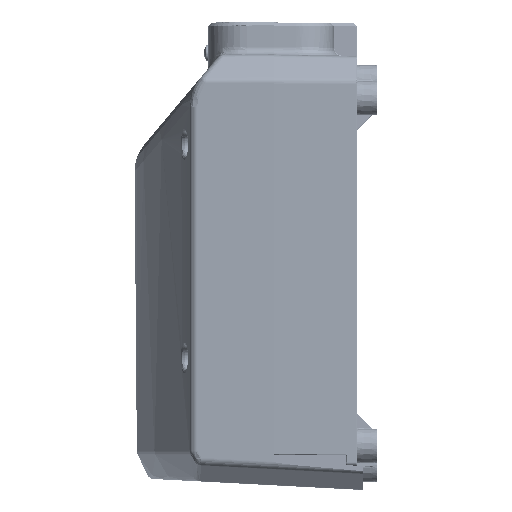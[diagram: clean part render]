
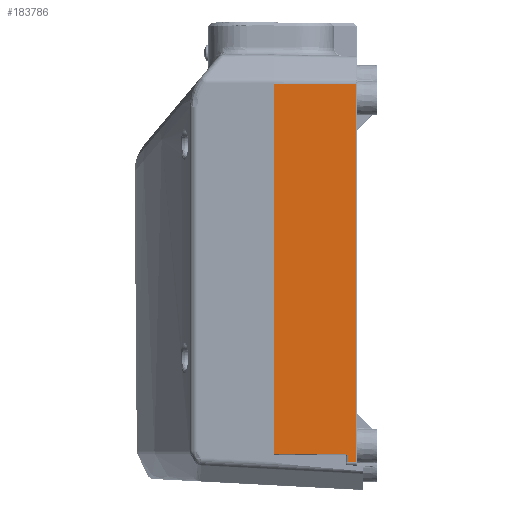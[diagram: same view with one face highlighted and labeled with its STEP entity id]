
A CAD part, left-side view. The second image highlights one B-rep face of the part: STEP entity #183786.
In plain terms, the highlighted planar face has unit normal (-1, -0.018, 0).
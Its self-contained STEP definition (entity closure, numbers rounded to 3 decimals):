
#6213 = EDGE_CURVE ( 'NONE', #103145, #340729, #163221, .T. ) ;
#9794 = CARTESIAN_POINT ( 'NONE',  ( -214.371, 4.66, -89.884 ) ) ;
#15762 = LINE ( 'NONE', #259124, #310454 ) ;
#22607 = PLANE ( 'NONE',  #109506 ) ;
#25508 = EDGE_CURVE ( 'NONE', #76959, #103145, #99662, .T. ) ;
#27721 = DIRECTION ( 'NONE',  ( 0., 0., -1. ) ) ;
#35865 =( BOUNDED_CURVE ( )  B_SPLINE_CURVE ( 3, ( #95740, #93287, #9794, #123991 ),
 .UNSPECIFIED., .F., .F. ) 
 B_SPLINE_CURVE_WITH_KNOTS ( ( 4, 4 ),
 ( 4.721, 6.283 ),
 .UNSPECIFIED. ) 
 CURVE ( )  GEOMETRIC_REPRESENTATION_ITEM ( )  RATIONAL_B_SPLINE_CURVE ( ( 1., 0.807, 0.807, 1. ) ) 
 REPRESENTATION_ITEM ( '' )  );
#36779 = VERTEX_POINT ( 'NONE', #286441 ) ;
#52060 = ORIENTED_EDGE ( 'NONE', *, *, #254551, .T. ) ;
#60481 = EDGE_LOOP ( 'NONE', ( #352280, #305867, #65878, #52060, #292369, #326067, #231932 ) ) ;
#65878 = ORIENTED_EDGE ( 'NONE', *, *, #145811, .T. ) ;
#76959 = VERTEX_POINT ( 'NONE', #344638 ) ;
#77923 = DIRECTION ( 'NONE',  ( -1., -0.017, 0. ) ) ;
#90375 = EDGE_CURVE ( 'NONE', #271574, #279142, #15762, .T. ) ;
#93287 = CARTESIAN_POINT ( 'NONE',  ( -214.375, 4.866, -89.676 ) ) ;
#95020 = VECTOR ( 'NONE', #213374, 1000. ) ;
#95740 = CARTESIAN_POINT ( 'NONE',  ( -214.38, 5.158, -89.673 ) ) ;
#99662 = LINE ( 'NONE', #109133, #95020 ) ;
#103145 = VERTEX_POINT ( 'NONE', #189181 ) ;
#104297 = VECTOR ( 'NONE', #268655, 1000. ) ;
#108007 = CARTESIAN_POINT ( 'NONE',  ( -214.287, -0.144, -89.72 ) ) ;
#109133 = CARTESIAN_POINT ( 'NONE',  ( -214.265, -1.439, 90.045 ) ) ;
#109506 = AXIS2_PLACEMENT_3D ( 'NONE', #246097, #77923, #274387 ) ;
#112518 = CARTESIAN_POINT ( 'NONE',  ( -214.986, 39.87, -89.37 ) ) ;
#113506 = EDGE_CURVE ( 'NONE', #36779, #271574, #323925, .T. ) ;
#123265 = DIRECTION ( 'NONE',  ( 0., 0., 1. ) ) ;
#123991 = CARTESIAN_POINT ( 'NONE',  ( -214.371, 4.66, -90.176 ) ) ;
#145811 = EDGE_CURVE ( 'NONE', #340729, #173466, #219720, .T. ) ;
#146486 = CARTESIAN_POINT ( 'NONE',  ( -214.986, 39.87, -89.37 ) ) ;
#149280 = VECTOR ( 'NONE', #164392, 1000. ) ;
#163221 = LINE ( 'NONE', #112518, #268585 ) ;
#164392 = DIRECTION ( 'NONE',  ( 0.017, -1., -0.009 ) ) ;
#173466 = VERTEX_POINT ( 'NONE', #243813 ) ;
#183786 = ADVANCED_FACE ( 'NONE', ( #354168 ), #22607, .T. ) ;
#189181 = CARTESIAN_POINT ( 'NONE',  ( -214.986, 39.87, 90.344 ) ) ;
#212044 = EDGE_CURVE ( 'NONE', #279142, #76959, #267642, .T. ) ;
#213374 = DIRECTION ( 'NONE',  ( -0.017, 1., 0.007 ) ) ;
#219720 = LINE ( 'NONE', #108007, #149280 ) ;
#231932 = ORIENTED_EDGE ( 'NONE', *, *, #212044, .T. ) ;
#234921 = CARTESIAN_POINT ( 'NONE',  ( -214.292, 0.133, 90.055 ) ) ;
#243813 = CARTESIAN_POINT ( 'NONE',  ( -214.38, 5.158, -89.673 ) ) ;
#246097 = CARTESIAN_POINT ( 'NONE',  ( -214.288, -0.115, -93.124 ) ) ;
#254033 = CARTESIAN_POINT ( 'NONE',  ( -214.371, 4.66, -93.352 ) ) ;
#254551 = EDGE_CURVE ( 'NONE', #173466, #36779, #35865, .T. ) ;
#259124 = CARTESIAN_POINT ( 'NONE',  ( -214.288, -0.117, -93.293 ) ) ;
#267642 = LINE ( 'NONE', #234921, #346660 ) ;
#268585 = VECTOR ( 'NONE', #27721, 1000. ) ;
#268655 = DIRECTION ( 'NONE',  ( 0., 0., -1. ) ) ;
#271574 = VERTEX_POINT ( 'NONE', #254033 ) ;
#274387 = DIRECTION ( 'NONE',  ( 0.017, -1., 0. ) ) ;
#279142 = VERTEX_POINT ( 'NONE', #298540 ) ;
#286441 = CARTESIAN_POINT ( 'NONE',  ( -214.371, 4.66, -90.176 ) ) ;
#292369 = ORIENTED_EDGE ( 'NONE', *, *, #113506, .T. ) ;
#298540 = CARTESIAN_POINT ( 'NONE',  ( -214.292, 0.133, -93.296 ) ) ;
#305867 = ORIENTED_EDGE ( 'NONE', *, *, #6213, .T. ) ;
#310454 = VECTOR ( 'NONE', #347589, 1000. ) ;
#323925 = LINE ( 'NONE', #353517, #104297 ) ;
#326067 = ORIENTED_EDGE ( 'NONE', *, *, #90375, .T. ) ;
#340729 = VERTEX_POINT ( 'NONE', #146486 ) ;
#344638 = CARTESIAN_POINT ( 'NONE',  ( -214.292, 0.133, 90.056 ) ) ;
#346660 = VECTOR ( 'NONE', #123265, 1000. ) ;
#347589 = DIRECTION ( 'NONE',  ( 0.017, -1., 0.012 ) ) ;
#352280 = ORIENTED_EDGE ( 'NONE', *, *, #25508, .T. ) ;
#353517 = CARTESIAN_POINT ( 'NONE',  ( -214.371, 4.66, -93.124 ) ) ;
#354168 = FACE_OUTER_BOUND ( 'NONE', #60481, .T. ) ;
